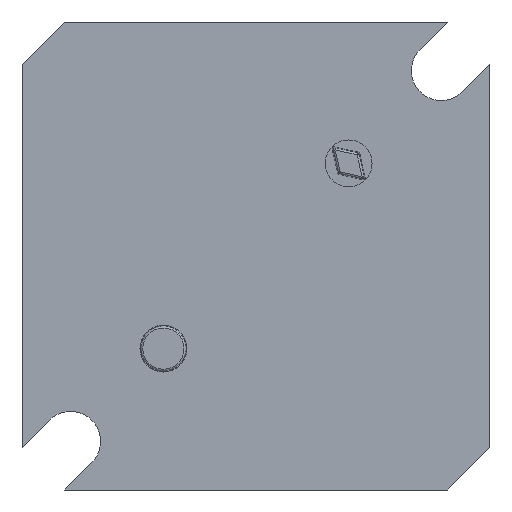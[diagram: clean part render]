
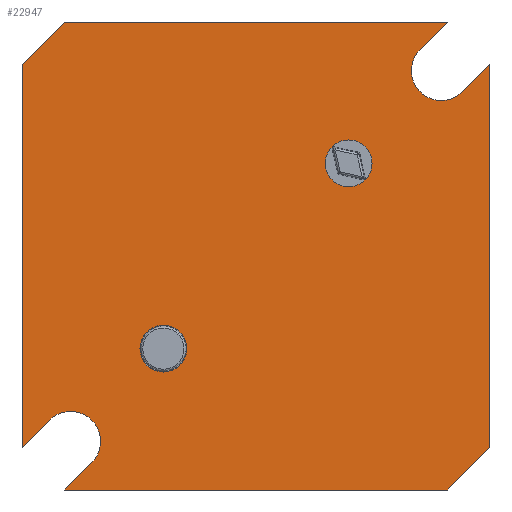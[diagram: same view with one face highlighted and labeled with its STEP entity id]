
A CAD part, front view. The second image highlights one B-rep face of the part: STEP entity #22947.
In plain terms, the highlighted planar face has unit normal (0, -1, 0).
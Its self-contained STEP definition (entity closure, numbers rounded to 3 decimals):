
#92 = CARTESIAN_POINT ( 'NONE',  ( 163.985, 0., -88.518 ) ) ;
#479 = AXIS2_PLACEMENT_3D ( 'NONE', #12169, #21036, #1113 ) ;
#874 = ORIENTED_EDGE ( 'NONE', *, *, #11363, .F. ) ;
#981 = LINE ( 'NONE', #7972, #16630 ) ;
#1113 = DIRECTION ( 'NONE',  ( 0., 0., 1. ) ) ;
#1151 = CARTESIAN_POINT ( 'NONE',  ( 163.647, 0., -66.118 ) ) ;
#1440 = DIRECTION ( 'NONE',  ( -0.707, 0., -0.707 ) ) ;
#1838 = VERTEX_POINT ( 'NONE', #15987 ) ;
#2407 = DIRECTION ( 'NONE',  ( 0., 0., -1. ) ) ;
#3076 = VECTOR ( 'NONE', #4880, 1000. ) ;
#3080 = DIRECTION ( 'NONE',  ( -0.707, 0., -0.707 ) ) ;
#3198 = CARTESIAN_POINT ( 'NONE',  ( 161.385, 0., -88.855 ) ) ;
#3496 = DIRECTION ( 'NONE',  ( 0., 0., 1. ) ) ;
#3564 = AXIS2_PLACEMENT_3D ( 'NONE', #28705, #20325, #10897 ) ;
#3794 = DIRECTION ( 'NONE',  ( 0., 0., 1. ) ) ;
#3989 = CARTESIAN_POINT ( 'NONE',  ( 161.385, 0., -88.855 ) ) ;
#4033 = LINE ( 'NONE', #15377, #21720 ) ;
#4069 = DIRECTION ( 'NONE',  ( -0.707, 0., -0.707 ) ) ;
#4101 = VERTEX_POINT ( 'NONE', #10543 ) ;
#4315 = ORIENTED_EDGE ( 'NONE', *, *, #25013, .F. ) ;
#4317 = CIRCLE ( 'NONE', #27031, 1.6 ) ;
#4584 = EDGE_CURVE ( 'NONE', #14731, #16233, #20928, .T. ) ;
#4600 = DIRECTION ( 'NONE',  ( 0., -1., 0. ) ) ;
#4610 = VERTEX_POINT ( 'NONE', #1151 ) ;
#4677 = VERTEX_POINT ( 'NONE', #22070 ) ;
#4880 = DIRECTION ( 'NONE',  ( 1., 0., 0. ) ) ;
#5035 = DIRECTION ( 'NONE',  ( 0., -1., 0. ) ) ;
#5130 = AXIS2_PLACEMENT_3D ( 'NONE', #7947, #7532, #27384 ) ;
#5139 = VERTEX_POINT ( 'NONE', #25795 ) ;
#5498 = ORIENTED_EDGE ( 'NONE', *, *, #21281, .F. ) ;
#5554 = CIRCLE ( 'NONE', #15318, 1.6 ) ;
#6065 = VERTEX_POINT ( 'NONE', #15088 ) ;
#6271 = CARTESIAN_POINT ( 'NONE',  ( 183.785, 0., -68.718 ) ) ;
#6434 = EDGE_LOOP ( 'NONE', ( #11797, #24199 ) ) ;
#6652 = VECTOR ( 'NONE', #3080, 1000. ) ;
#6757 = EDGE_CURVE ( 'NONE', #15514, #4677, #12874, .T. ) ;
#6892 = LINE ( 'NONE', #15608, #27944 ) ;
#7532 = DIRECTION ( 'NONE',  ( 0., 1., 0. ) ) ;
#7557 = ORIENTED_EDGE ( 'NONE', *, *, #21116, .F. ) ;
#7570 = VERTEX_POINT ( 'NONE', #22954 ) ;
#7947 = CARTESIAN_POINT ( 'NONE',  ( 168.935, 0., -83.567 ) ) ;
#7972 = CARTESIAN_POINT ( 'NONE',  ( 163.647, 0., -91.118 ) ) ;
#7980 = CIRCLE ( 'NONE', #27884, 1.25 ) ;
#8421 = ORIENTED_EDGE ( 'NONE', *, *, #6757, .T. ) ;
#8617 = CARTESIAN_POINT ( 'NONE',  ( 184.122, 0., -91.118 ) ) ;
#8794 = EDGE_CURVE ( 'NONE', #4677, #15514, #25507, .T. ) ;
#9692 = AXIS2_PLACEMENT_3D ( 'NONE', #20868, #5035, #22909 ) ;
#9740 = CARTESIAN_POINT ( 'NONE',  ( 163.647, 0., -91.118 ) ) ;
#9759 = EDGE_CURVE ( 'NONE', #16233, #17365, #21152, .T. ) ;
#9850 = DIRECTION ( 'NONE',  ( -1., 0., 0. ) ) ;
#10080 = ORIENTED_EDGE ( 'NONE', *, *, #4584, .F. ) ;
#10322 = CARTESIAN_POINT ( 'NONE',  ( 186.385, 0., -88.855 ) ) ;
#10543 = CARTESIAN_POINT ( 'NONE',  ( 182.653, 0., -67.586 ) ) ;
#10565 = CARTESIAN_POINT ( 'NONE',  ( 183.785, 0., -70.318 ) ) ;
#10698 = VERTEX_POINT ( 'NONE', #22746 ) ;
#10766 = LINE ( 'NONE', #14154, #6652 ) ;
#10897 = DIRECTION ( 'NONE',  ( 0., 0., 1. ) ) ;
#11363 = EDGE_CURVE ( 'NONE', #23759, #18521, #17741, .T. ) ;
#11421 = EDGE_CURVE ( 'NONE', #19815, #5139, #5554, .T. ) ;
#11797 = ORIENTED_EDGE ( 'NONE', *, *, #20740, .T. ) ;
#12076 = EDGE_CURVE ( 'NONE', #18521, #19216, #18859, .T. ) ;
#12169 = CARTESIAN_POINT ( 'NONE',  ( 178.835, 0., -73.668 ) ) ;
#12359 = ORIENTED_EDGE ( 'NONE', *, *, #22522, .F. ) ;
#12374 = DIRECTION ( 'NONE',  ( 0., 1., 0. ) ) ;
#12613 = VECTOR ( 'NONE', #14621, 1000. ) ;
#12874 = CIRCLE ( 'NONE', #3564, 1.25 ) ;
#13125 = EDGE_LOOP ( 'NONE', ( #15169, #874, #12359, #17336, #14736, #15595, #24293, #16351, #5498, #22164, #10080, #4315, #7557 ) ) ;
#13389 = CARTESIAN_POINT ( 'NONE',  ( 162.853, 0., -87.386 ) ) ;
#13433 = DIRECTION ( 'NONE',  ( 0.707, 0., 0.707 ) ) ;
#13455 = CARTESIAN_POINT ( 'NONE',  ( 186.385, 0., -88.855 ) ) ;
#13886 = LINE ( 'NONE', #24771, #3076 ) ;
#14154 = CARTESIAN_POINT ( 'NONE',  ( 184.122, 0., -66.118 ) ) ;
#14621 = DIRECTION ( 'NONE',  ( 0., 0., 1. ) ) ;
#14626 = CARTESIAN_POINT ( 'NONE',  ( 163.647, 0., -91.118 ) ) ;
#14700 = PLANE ( 'NONE',  #18130 ) ;
#14731 = VERTEX_POINT ( 'NONE', #13389 ) ;
#14736 = ORIENTED_EDGE ( 'NONE', *, *, #11421, .F. ) ;
#14871 = VECTOR ( 'NONE', #9850, 1000. ) ;
#15018 = ORIENTED_EDGE ( 'NONE', *, *, #8794, .T. ) ;
#15088 = CARTESIAN_POINT ( 'NONE',  ( 165.116, 0., -89.649 ) ) ;
#15169 = ORIENTED_EDGE ( 'NONE', *, *, #12076, .F. ) ;
#15274 = CARTESIAN_POINT ( 'NONE',  ( 183.785, 0., -68.718 ) ) ;
#15318 = AXIS2_PLACEMENT_3D ( 'NONE', #15274, #26140, #15415 ) ;
#15377 = CARTESIAN_POINT ( 'NONE',  ( 161.385, 0., -68.38 ) ) ;
#15415 = DIRECTION ( 'NONE',  ( 0., 0., 1. ) ) ;
#15514 = VERTEX_POINT ( 'NONE', #19506 ) ;
#15595 = ORIENTED_EDGE ( 'NONE', *, *, #21453, .F. ) ;
#15608 = CARTESIAN_POINT ( 'NONE',  ( 186.385, 0., -68.38 ) ) ;
#15987 = CARTESIAN_POINT ( 'NONE',  ( 184.122, 0., -66.118 ) ) ;
#16233 = VERTEX_POINT ( 'NONE', #23493 ) ;
#16351 = ORIENTED_EDGE ( 'NONE', *, *, #26742, .F. ) ;
#16630 = VECTOR ( 'NONE', #25374, 1000. ) ;
#16981 = VECTOR ( 'NONE', #1440, 1000. ) ;
#17164 = FACE_BOUND ( 'NONE', #20355, .T. ) ;
#17336 = ORIENTED_EDGE ( 'NONE', *, *, #25571, .F. ) ;
#17365 = VERTEX_POINT ( 'NONE', #21146 ) ;
#17741 = LINE ( 'NONE', #8617, #22251 ) ;
#17837 = DIRECTION ( 'NONE',  ( 0., 0., 1. ) ) ;
#18082 = EDGE_CURVE ( 'NONE', #7570, #25981, #7980, .T. ) ;
#18130 = AXIS2_PLACEMENT_3D ( 'NONE', #6271, #12374, #3794 ) ;
#18521 = VERTEX_POINT ( 'NONE', #22053 ) ;
#18859 = LINE ( 'NONE', #14626, #14871 ) ;
#19216 = VERTEX_POINT ( 'NONE', #9740 ) ;
#19506 = CARTESIAN_POINT ( 'NONE',  ( 178.835, 0., -72.418 ) ) ;
#19815 = VERTEX_POINT ( 'NONE', #10565 ) ;
#20325 = DIRECTION ( 'NONE',  ( 0., 1., 0. ) ) ;
#20355 = EDGE_LOOP ( 'NONE', ( #8421, #15018 ) ) ;
#20740 = EDGE_CURVE ( 'NONE', #25981, #7570, #22308, .T. ) ;
#20868 = CARTESIAN_POINT ( 'NONE',  ( 183.785, 0., -68.718 ) ) ;
#20928 = LINE ( 'NONE', #3198, #16981 ) ;
#20943 = DIRECTION ( 'NONE',  ( 0., 1., 0. ) ) ;
#21036 = DIRECTION ( 'NONE',  ( 0., 1., 0. ) ) ;
#21116 = EDGE_CURVE ( 'NONE', #19216, #6065, #981, .T. ) ;
#21146 = CARTESIAN_POINT ( 'NONE',  ( 161.385, 0., -68.38 ) ) ;
#21152 = LINE ( 'NONE', #3989, #12613 ) ;
#21281 = EDGE_CURVE ( 'NONE', #17365, #4610, #4033, .T. ) ;
#21453 = EDGE_CURVE ( 'NONE', #4101, #19815, #22201, .T. ) ;
#21621 = DIRECTION ( 'NONE',  ( 0.707, 0., 0.707 ) ) ;
#21720 = VECTOR ( 'NONE', #21621, 1000. ) ;
#22053 = CARTESIAN_POINT ( 'NONE',  ( 184.122, 0., -91.118 ) ) ;
#22070 = CARTESIAN_POINT ( 'NONE',  ( 178.835, 0., -74.918 ) ) ;
#22164 = ORIENTED_EDGE ( 'NONE', *, *, #9759, .F. ) ;
#22201 = CIRCLE ( 'NONE', #9692, 1.6 ) ;
#22251 = VECTOR ( 'NONE', #4069, 1000. ) ;
#22308 = CIRCLE ( 'NONE', #5130, 1.25 ) ;
#22522 = EDGE_CURVE ( 'NONE', #10698, #23759, #26799, .T. ) ;
#22746 = CARTESIAN_POINT ( 'NONE',  ( 186.385, 0., -68.38 ) ) ;
#22909 = DIRECTION ( 'NONE',  ( 0., 0., 1. ) ) ;
#22947 = ADVANCED_FACE ( 'NONE', ( #17164, #26147, #23841 ), #14700, .F. ) ;
#22954 = CARTESIAN_POINT ( 'NONE',  ( 168.935, 0., -84.817 ) ) ;
#23406 = CARTESIAN_POINT ( 'NONE',  ( 168.935, 0., -83.567 ) ) ;
#23493 = CARTESIAN_POINT ( 'NONE',  ( 161.385, 0., -88.855 ) ) ;
#23759 = VERTEX_POINT ( 'NONE', #10322 ) ;
#23789 = CARTESIAN_POINT ( 'NONE',  ( 168.935, 0., -82.317 ) ) ;
#23841 = FACE_OUTER_BOUND ( 'NONE', #13125, .T. ) ;
#24199 = ORIENTED_EDGE ( 'NONE', *, *, #18082, .T. ) ;
#24293 = ORIENTED_EDGE ( 'NONE', *, *, #25677, .F. ) ;
#24771 = CARTESIAN_POINT ( 'NONE',  ( 184.122, 0., -66.118 ) ) ;
#25013 = EDGE_CURVE ( 'NONE', #6065, #14731, #4317, .T. ) ;
#25374 = DIRECTION ( 'NONE',  ( 0.707, 0., 0.707 ) ) ;
#25507 = CIRCLE ( 'NONE', #479, 1.25 ) ;
#25571 = EDGE_CURVE ( 'NONE', #5139, #10698, #6892, .T. ) ;
#25677 = EDGE_CURVE ( 'NONE', #1838, #4101, #10766, .T. ) ;
#25795 = CARTESIAN_POINT ( 'NONE',  ( 184.916, 0., -69.849 ) ) ;
#25981 = VERTEX_POINT ( 'NONE', #23789 ) ;
#26140 = DIRECTION ( 'NONE',  ( 0., -1., 0. ) ) ;
#26147 = FACE_BOUND ( 'NONE', #6434, .T. ) ;
#26742 = EDGE_CURVE ( 'NONE', #4610, #1838, #13886, .T. ) ;
#26799 = LINE ( 'NONE', #13455, #26871 ) ;
#26871 = VECTOR ( 'NONE', #2407, 1000. ) ;
#27031 = AXIS2_PLACEMENT_3D ( 'NONE', #92, #4600, #17837 ) ;
#27384 = DIRECTION ( 'NONE',  ( 0., 0., 1. ) ) ;
#27884 = AXIS2_PLACEMENT_3D ( 'NONE', #23406, #20943, #3496 ) ;
#27944 = VECTOR ( 'NONE', #13433, 1000. ) ;
#28705 = CARTESIAN_POINT ( 'NONE',  ( 178.835, 0., -73.668 ) ) ;
